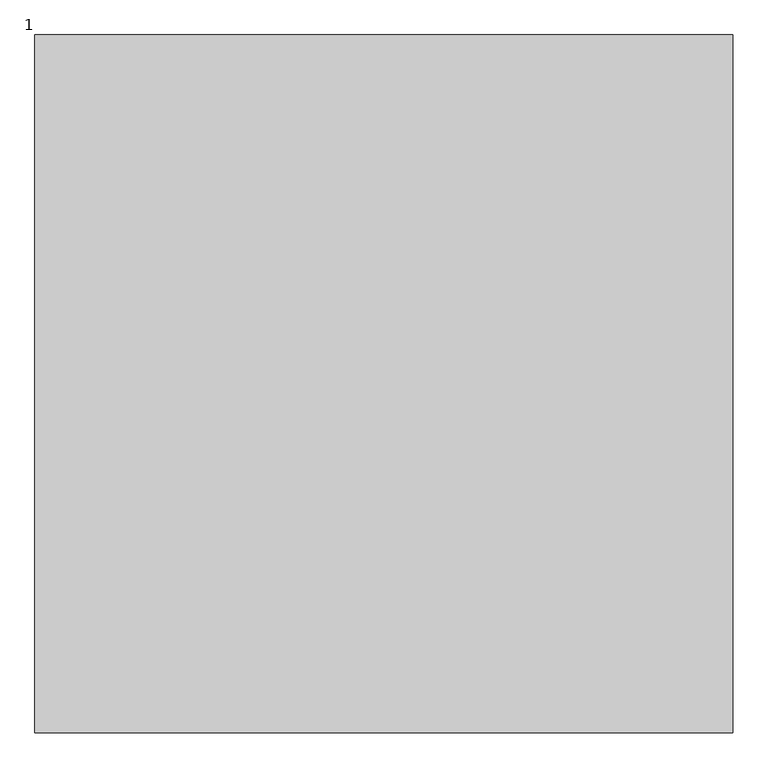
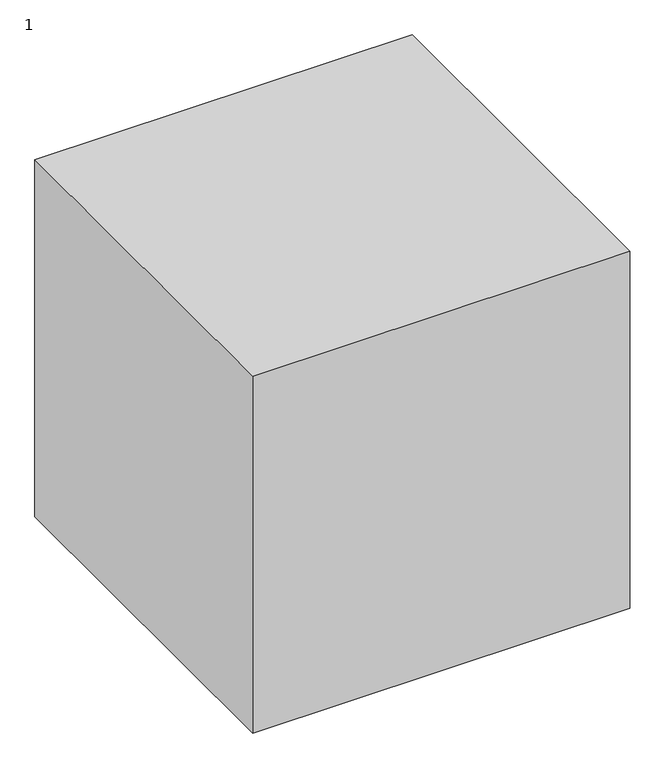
"""IFC4 building model written with IfcOpenShell, lengths in millimetres: proxy geometry, 1222111112 : 1."""

from ifc_helpers import new_model, si_unit, origin, origin_with_axes, place, context, project, spatial, polyline, outline, extrude, source, transform, mapped, element, save


def proxy_1_f1478c7e(model_context):
    return source(origin(), model_context, "Body", "SweptSolid", [
        extrude(outline(polyline([(15692.0243292, 7335.2294472), (15692.0243292, 6335.2294472), (14692.0243292, 6335.2294472), (14692.0243292, 7335.2294472), (15692.0243292, 7335.2294472)])), origin_with_axes(), (0.0, 0.0, 1.0), 1000.0),
    ])


if __name__ == "__main__":
    model = new_model("IFC4")
    model_context = context("Model", 3, world=origin())
    ifc_project = project(units=[si_unit("LENGTHUNIT", "METRE", prefix="MILLI")], contexts=[model_context])
    site = spatial("IfcSite", under=ifc_project)
    building = spatial("IfcBuilding", under=site)
    placement = place(None, origin())
    proxy_1_shape = proxy_1_f1478c7e(model_context)
    element("IfcBuildingElementProxy", 1, Name="1222111112 : 1", ObjectType="1222111112 : 1", at=placement, inside=building, context=model_context, shape_type="MappedRepresentation", body=[
        mapped(proxy_1_shape, transform((0.0, 0.0, 0.0), x_axis=(1.0, 0.0, 0.0), y_axis=(0.0, 1.0, 0.0), z_axis=(0.0, 0.0, 1.0))),
    ])
    save(model, "model.ifc")
